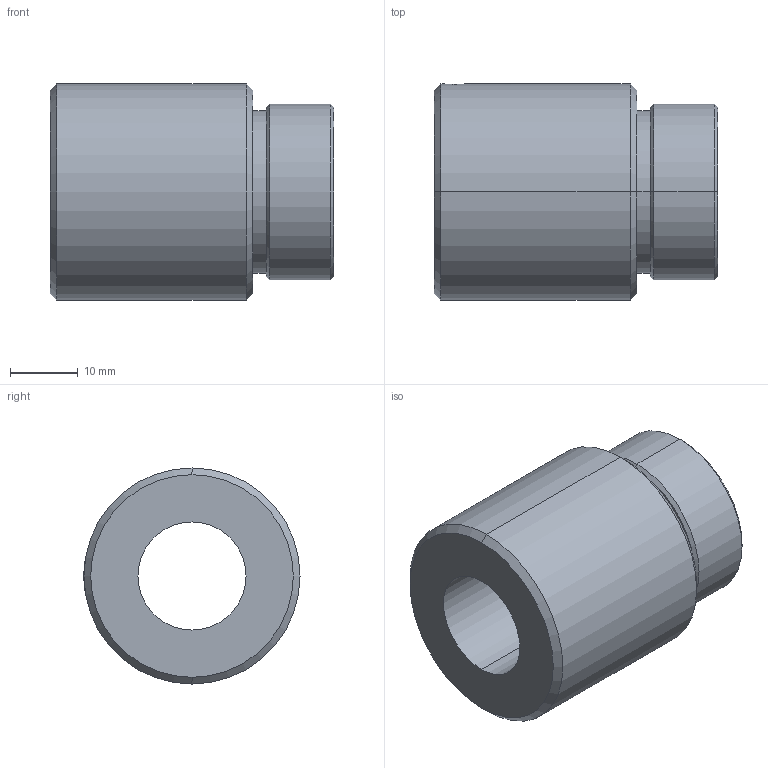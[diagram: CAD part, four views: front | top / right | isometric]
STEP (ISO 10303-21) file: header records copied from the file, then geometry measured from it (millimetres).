
FILE_DESCRIPTION (( 'STEP AP214' ), '1' );
FILE_NAME ('KGM-E-1605-RH.STEP', '2021-03-19T01:01:28', ( 'user' ), ( 'datathink' ), 'SwSTEP 2.0', 'SolidWorks 2013', '' );
FILE_SCHEMA (( 'AUTOMOTIVE_DESIGN' ));
Length unit declared in the file: millimetre
Products named in the file (1): KGM-E-1605-RH
Bounding box: 42 x 32 x 32 mm (x, y, z)
Volume: 21759.8 mm3; surface area: 7310.3 mm2
Topology: 1 solids, 1 shells, 24 faces, 50 edges, 29 vertices
Faces by surface type: cone 10, cylinder 10, plane 4
Entity records: 714 total; most frequent: CARTESIAN_POINT 156, DIRECTION 122, ORIENTED_EDGE 96, AXIS2_PLACEMENT_3D 51, EDGE_CURVE 48, EDGE_LOOP 29, VERTEX_POINT 29, CIRCLE 26
